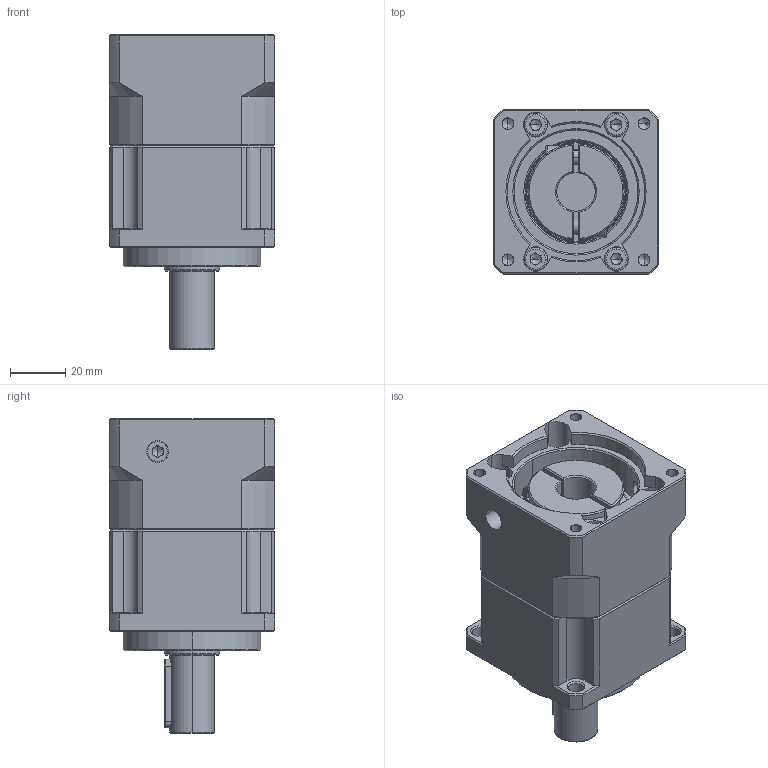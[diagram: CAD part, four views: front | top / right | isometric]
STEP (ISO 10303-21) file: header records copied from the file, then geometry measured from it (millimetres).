
FILE_DESCRIPTION (( 'STEP AP214' ), '1' );
FILE_NAME ('ZPB060-D16-L1-P1-14-50-70-M5.step', '2024-04-23T16:09:37', ( 'Windows 蚚誧' ), ( 'Organization' ), 'SwSTEP 2.0', 'SolidWorks 2016', '' );
FILE_SCHEMA (( 'AUTOMOTIVE_DESIGN' ));
Length unit declared in the file: millimetre
Products named in the file (1): ZPB060-D16-L1-P1-14-50-70-M5
Bounding box: 60 x 60 x 114.5 mm (x, y, z)
Volume: 232928.2 mm3; surface area: 65906.9 mm2
Topology: 13 solids, 14 shells, 1919 faces, 5464 edges, 3551 vertices
Faces by surface type: plane 1005, bspline 373, cylinder 255, cone 148, torus 92, sphere 46
Entity records: 102326 total; most frequent: CARTESIAN_POINT 34697, ORIENTED_EDGE 10622, DIRECTION 8052, EDGE_CURVE 5311, VERTEX_POINT 3482, VECTOR 3234, LINE 3234, AXIS2_PLACEMENT_3D 2409
